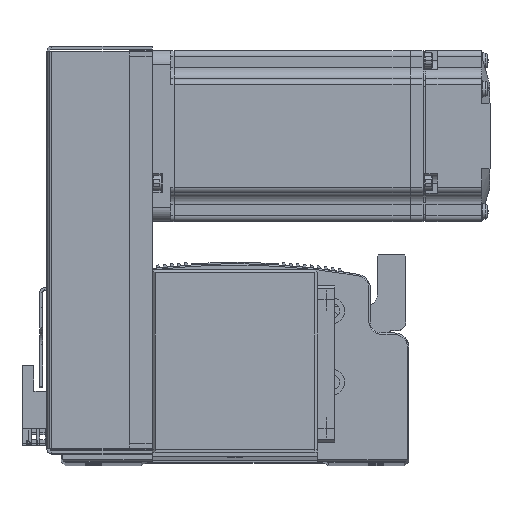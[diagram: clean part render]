
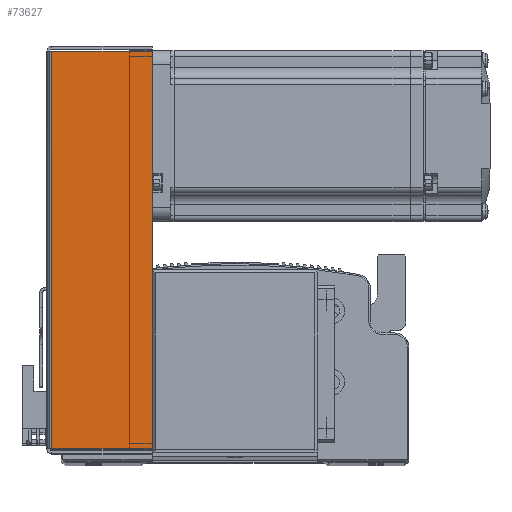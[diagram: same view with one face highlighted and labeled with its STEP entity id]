
A CAD part, top view. The second image highlights one B-rep face of the part: STEP entity #73627.
In plain terms, the highlighted planar face has unit normal (0, 0, 1) as drawn and (0, 0, -1) by its records, which use the part's own axes.
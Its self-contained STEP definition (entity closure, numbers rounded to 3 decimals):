
#2456 = EDGE_LOOP ( 'NONE', ( #72771, #72860, #72765, #72760 ) ) ;
#27679 = DIRECTION ( 'NONE',  ( 1., 0., 0. ) ) ;
#27688 = CARTESIAN_POINT ( 'NONE',  ( 71.5, 0.737, -33.5 ) ) ;
#28020 = AXIS2_PLACEMENT_3D ( 'NONE', #39752, #39703, #39733 ) ;
#28675 = CARTESIAN_POINT ( 'NONE',  ( 69.793, 0., -33.5 ) ) ;
#28681 = DIRECTION ( 'NONE',  ( 0., 1., 0. ) ) ;
#28772 = DIRECTION ( 'NONE',  ( 1., 0., 0. ) ) ;
#28810 = CARTESIAN_POINT ( 'NONE',  ( 0., 36., -33.5 ) ) ;
#28951 = DIRECTION ( 'NONE',  ( 0., 1., 0. ) ) ;
#28987 = CARTESIAN_POINT ( 'NONE',  ( -69.793, 0., -33.5 ) ) ;
#31505 = VECTOR ( 'NONE', #28681, 1000. ) ;
#31524 = LINE ( 'NONE', #28810, #31538 ) ;
#31538 = VECTOR ( 'NONE', #28772, 1000. ) ;
#31551 = LINE ( 'NONE', #28675, #31505 ) ;
#31594 = LINE ( 'NONE', #28987, #31605 ) ;
#31605 = VECTOR ( 'NONE', #28951, 1000. ) ;
#39703 = DIRECTION ( 'NONE',  ( 0., 0., 1. ) ) ;
#39721 = PLANE ( 'NONE',  #28020 ) ;
#39733 = DIRECTION ( 'NONE',  ( 0., -1., 0. ) ) ;
#39752 = CARTESIAN_POINT ( 'NONE',  ( 0., 0., -33.5 ) ) ;
#43422 = EDGE_CURVE ( 'NONE', #67887, #67824, #31551, .T. ) ;
#43480 = EDGE_CURVE ( 'NONE', #67860, #67824, #31524, .T. ) ;
#43591 = EDGE_CURVE ( 'NONE', #67889, #67860, #31594, .T. ) ;
#43828 = EDGE_CURVE ( 'NONE', #67889, #67887, #61215, .T. ) ;
#61192 = VECTOR ( 'NONE', #27679, 1000. ) ;
#61215 = LINE ( 'NONE', #27688, #61192 ) ;
#67824 = VERTEX_POINT ( 'NONE', #69358 ) ;
#67860 = VERTEX_POINT ( 'NONE', #69350 ) ;
#67887 = VERTEX_POINT ( 'NONE', #69390 ) ;
#67889 = VERTEX_POINT ( 'NONE', #69394 ) ;
#69350 = CARTESIAN_POINT ( 'NONE',  ( -69.793, 36., -33.5 ) ) ;
#69358 = CARTESIAN_POINT ( 'NONE',  ( 69.793, 36., -33.5 ) ) ;
#69390 = CARTESIAN_POINT ( 'NONE',  ( 69.793, 0.737, -33.5 ) ) ;
#69394 = CARTESIAN_POINT ( 'NONE',  ( -69.793, 0.737, -33.5 ) ) ;
#70477 = FACE_OUTER_BOUND ( 'NONE', #2456, .T. ) ;
#72760 = ORIENTED_EDGE ( 'NONE', *, *, #43422, .F. ) ;
#72765 = ORIENTED_EDGE ( 'NONE', *, *, #43480, .T. ) ;
#72771 = ORIENTED_EDGE ( 'NONE', *, *, #43828, .F. ) ;
#72860 = ORIENTED_EDGE ( 'NONE', *, *, #43591, .T. ) ;
#73627 = ADVANCED_FACE ( 'NONE', ( #70477 ), #39721, .F. ) ;
